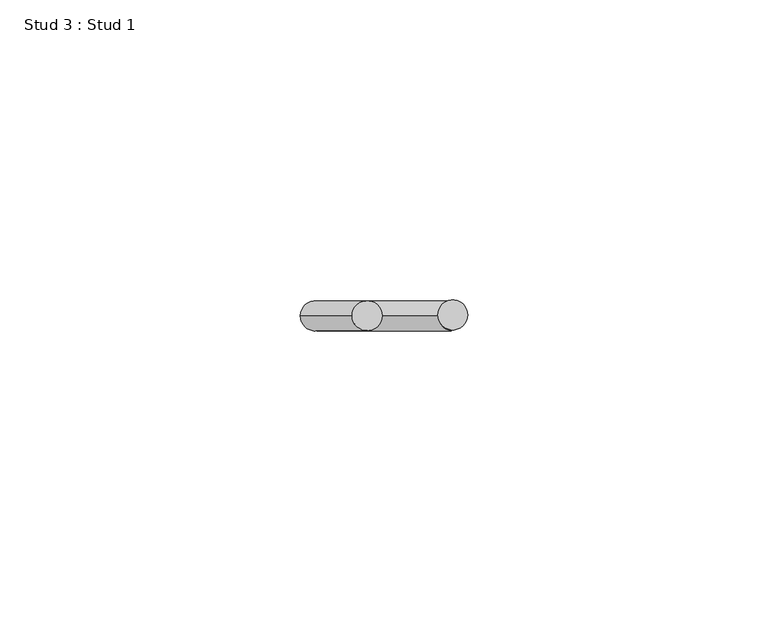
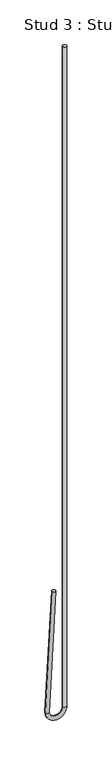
"""IFC4 building model written with IfcOpenShell, lengths in millimetres: proxy geometry, Stud 3 : Stud 1."""

from ifc_helpers import new_model, si_unit, point, frame, origin, place, context, project, spatial, circle_curve, ellipse_curve, trimmed, source, transform, mapped, element, save
from ifc_brep_helpers import plane_surface, cylinder_surface, revolved_surface, advanced_brep


def stud_3_stud_1_37971eae(model_context):
    return source(origin(), model_context, "Body", "AdvancedBrep", [
        advanced_brep(
        [(-10978.2326538, 4624.5191481, 3640.800192), (-10973.2395061, 4624.5191481, 3640.5385122), (-10986.8733201, 4624.5191481, 3475.9264558), (-10981.8801725, 4624.5191481, 3475.664776), (-10963.9714562, 4624.5191481, 3475.7956159), (-10958.9714562, 4624.5191481, 3475.7956159), (-10958.9714562, 4624.5191481, 4390.1956159), (-10963.9714562, 4624.5191481, 4390.1956159)],
        [
            (0, 1, circle_curve(frame((-10975.7360799, 4624.5191481, 3640.6693521), z_axis=(0.05233595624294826, 0.0, 0.9986295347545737), x_axis=(0.9986295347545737, 0.0, -0.05233595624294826)), 2.5)),
            (1, 0, circle_curve(frame((-10975.7360799, 4624.5191481, 3640.6693521), z_axis=(0.05233595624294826, 0.0, 0.9986295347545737), x_axis=(0.9986295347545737, 0.0, -0.05233595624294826)), 2.5)),
            (0, 2),
            (2, 3, circle_curve(frame((-10984.3767463, 4624.5191481, 3475.7956159), z_axis=(0.05233595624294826, 0.0, 0.9986295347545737), x_axis=(0.9986295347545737, 0.0, -0.05233595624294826)), 2.5)),
            (3, 1),
            (3, 2, circle_curve(frame((-10984.3767463, 4624.5191481, 3475.7956159), z_axis=(0.05233595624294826, 0.0, 0.9986295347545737), x_axis=(0.9986295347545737, 0.0, -0.05233595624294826)), 2.5)),
            (4, 3, circle_curve(frame((-10972.9241013, 4624.5191481, 3475.7956159), z_axis=(0.0, 1.0, 0.0), x_axis=(-1.0, 0.0, 0.0)), 8.952645)),
            (2, 5, circle_curve(frame((-10972.9241013, 4624.5191481, 3475.7956159), z_axis=(0.0, -1.0, 0.0), x_axis=(-1.0, 0.0, 0.0)), 13.952645)),
            (5, 4, circle_curve(frame((-10961.4714562, 4624.5191481, 3475.7956159), z_axis=(0.0, 0.0, -1.0), x_axis=(-1.0, 0.0, 0.0)), 2.5)),
            (4, 5, circle_curve(frame((-10961.4714562, 4624.5191481, 3475.7956159), z_axis=(0.0, 0.0, -1.0), x_axis=(-1.0, 0.0, 0.0)), 2.5)),
            (6, 7, circle_curve(frame((-10961.4714562, 4624.5191481, 4390.1956159), z_axis=(0.0, 0.0, 1.0), x_axis=(-1.0, 0.0, 0.0)), 2.5)),
            (7, 6, circle_curve(frame((-10961.4714562, 4624.5191481, 4390.1956159), z_axis=(0.0, 0.0, 1.0), x_axis=(-1.0, 0.0, 0.0)), 2.5)),
            (5, 6),
            (7, 4),
        ],
        [
            plane_surface(frame((-10975.7360799, 5218.2441481, 3640.6693521), z_axis=(0.05233595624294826, 0.0, 0.9986295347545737), x_axis=(0.0, -1.0, 0.0))),
            cylinder_surface(frame((-10975.7360799, 4624.5191481, 3640.6693521), z_axis=(0.05233595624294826, 0.0, 0.9986295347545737), x_axis=(0.9986295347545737, 0.0, -0.05233595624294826)), 2.5),
            revolved_surface(trimmed(ellipse_curve(frame((-10984.3767463, 4624.5191481, 3475.7956159), z_axis=(0.0, 0.0, 1.0), x_axis=(1.0, 0.0, 0.0)), 2.5, 2.5), [point((-10986.8767463, 4624.5191481, 3475.7956159))], [point((-10981.8767463, 4624.5191481, 3475.7956159))], True, "CARTESIAN"), (-10972.9241013, 5218.2441481, 3475.7956159), (0.0, -1.0, 0.0)),
            revolved_surface(trimmed(ellipse_curve(frame((-10984.3767463, 4624.5191481, 3475.7956159), z_axis=(0.0, 0.0, 1.0), x_axis=(1.0, 0.0, 0.0)), 2.5, 2.5), [point((-10981.8767463, 4624.5191481, 3475.7956159))], [point((-10986.8767463, 4624.5191481, 3475.7956159))], True, "CARTESIAN"), (-10972.9241013, 5218.2441481, 3475.7956159), (0.0, -1.0, 0.0)),
            plane_surface(frame((-10961.4714562, 5218.2441481, 4390.1956159), z_axis=(0.0, 0.0, 1.0), x_axis=(0.0, -1.0, 0.0))),
            cylinder_surface(frame((-10961.4714562, 4624.5191481, 3475.7956159), z_axis=(0.0, 0.0, -1.0), x_axis=(-1.0, 0.0, 0.0)), 2.5),
        ],
        [
            (0, [[1, 2]]),
            (1, [[-1, 3, 4, 5]]),
            (1, [[-2, -5, 6, -3]]),
            (2, [[7, -4, 8, 9]]),
            (3, [[-8, -6, -7, 10]]),
            (4, [[11, 12]]),
            (5, [[-9, 13, -12, 14]]),
            (5, [[-10, -14, -11, -13]]),
        ],
    ),
    ])


if __name__ == "__main__":
    model = new_model("IFC4")
    model_context = context("Model", 3, world=origin())
    ifc_project = project(units=[si_unit("LENGTHUNIT", "METRE", prefix="MILLI")], contexts=[model_context])
    site = spatial("IfcSite", under=ifc_project)
    building = spatial("IfcBuilding", under=site)
    placement = place(None, origin())
    stud_3_stud_1_shape = stud_3_stud_1_37971eae(model_context)
    element("IfcBuildingElementProxy", 1, Name="Stud 3 : Stud 1", ObjectType="Stud 3 : Stud 1", at=placement, inside=building, context=model_context, shape_type="MappedRepresentation", body=[
        mapped(stud_3_stud_1_shape, transform((0.0, 0.0, 0.0), x_axis=(1.0, 0.0, 0.0), y_axis=(0.0, 1.0, 0.0), z_axis=(0.0, 0.0, 1.0))),
    ])
    save(model, "model.ifc")
